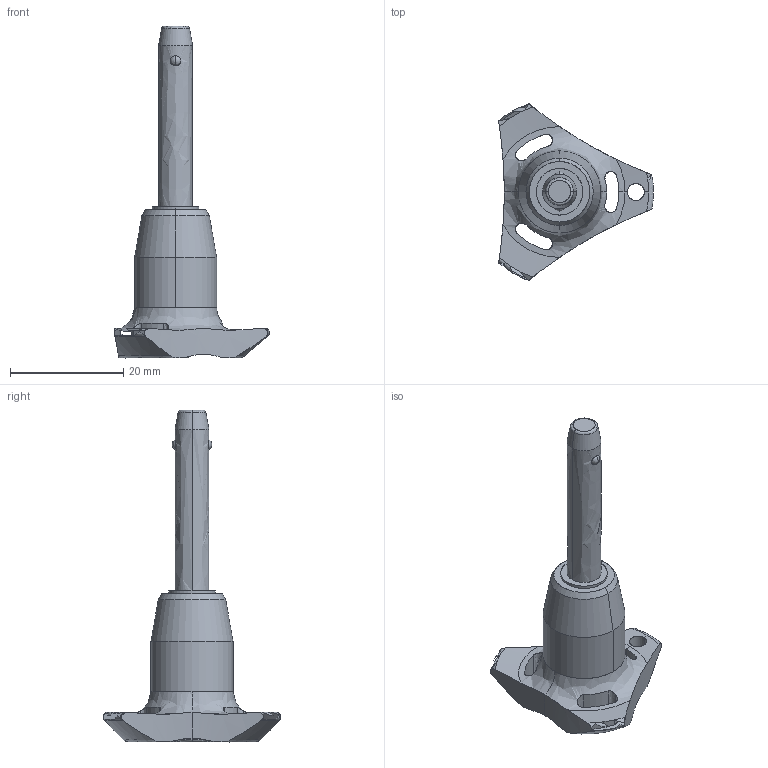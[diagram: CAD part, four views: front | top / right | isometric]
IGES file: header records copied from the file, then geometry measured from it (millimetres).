
Start section: SolidWorks IGES file using analytic representation for surfaces
Global section: file name: C:\Users\ianosborn\Desktop\QR1724_v2\QR1724_v2_20251112_IGES\QR1724.M06-025-S.igs; native system: SolidWorks 2019; preprocessor: SolidWorks 2019; author: IanOsborn; date: 251112.124542; units: millimetre
Bounding box: 27.4 x 31.31 x 58.7 mm (x, y, z)
Surface area: 3024.1 mm2 (no closed solid volume)
Topology: 0 solids, 0 shells, 66 faces, 1255 edges, 1236 vertices
Faces by surface type: revolution 50, bspline 16
